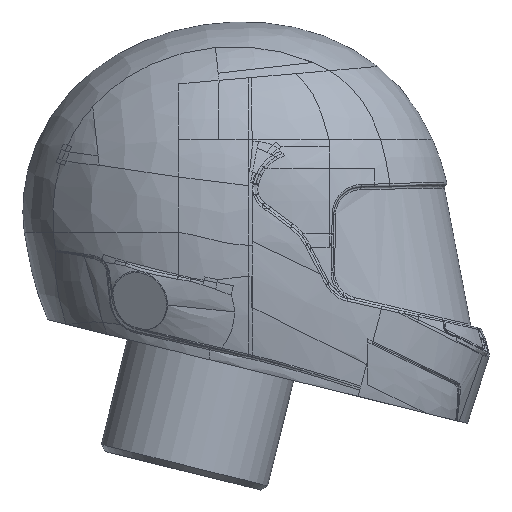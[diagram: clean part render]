
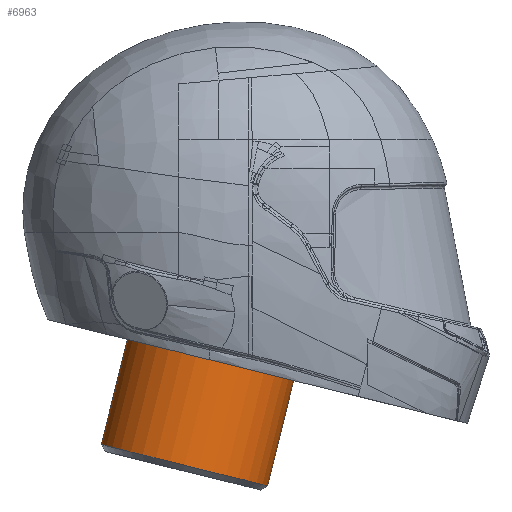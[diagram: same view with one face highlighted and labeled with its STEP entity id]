
A CAD part, front view. The second image highlights one B-rep face of the part: STEP entity #6963.
In plain terms, the highlighted cylindrical face has radius 3 mm (diameter 6 mm), a full revolution.
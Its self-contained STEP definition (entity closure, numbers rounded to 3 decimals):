
#1467=CYLINDRICAL_SURFACE('',#7445,3.);
#1492=FACE_OUTER_BOUND('',#1948,.T.);
#1948=EDGE_LOOP('',(#4564,#4565,#4566,#4567,#4568));
#2404=LINE('',#8197,#2427);
#2427=VECTOR('',#7695,3.);
#2449=CIRCLE('',#7441,3.);
#2450=CIRCLE('',#7442,3.);
#2452=CIRCLE('',#7446,3.);
#2609=VERTEX_POINT('',#8187);
#2610=VERTEX_POINT('',#8188);
#2612=VERTEX_POINT('',#8196);
#3357=EDGE_CURVE('',#2609,#2610,#2449,.T.);
#3358=EDGE_CURVE('',#2610,#2609,#2450,.T.);
#3361=EDGE_CURVE('',#2610,#2612,#2404,.T.);
#3362=EDGE_CURVE('',#2612,#2612,#2452,.T.);
#4564=ORIENTED_EDGE('',*,*,#3357,.F.);
#4565=ORIENTED_EDGE('',*,*,#3358,.F.);
#4566=ORIENTED_EDGE('',*,*,#3361,.T.);
#4567=ORIENTED_EDGE('',*,*,#3362,.T.);
#4568=ORIENTED_EDGE('',*,*,#3361,.F.);
#6963=ADVANCED_FACE('',(#1492),#1467,.T.);
#7441=AXIS2_PLACEMENT_3D('',#8189,#7684,#7685);
#7442=AXIS2_PLACEMENT_3D('',#8190,#7686,#7687);
#7445=AXIS2_PLACEMENT_3D('',#8195,#7693,#7694);
#7446=AXIS2_PLACEMENT_3D('',#8198,#7696,#7697);
#7684=DIRECTION('center_axis',(-0.24,0.,-0.971));
#7685=DIRECTION('ref_axis',(-0.971,0.,0.24));
#7686=DIRECTION('center_axis',(-0.24,0.,-0.971));
#7687=DIRECTION('ref_axis',(-0.971,0.,0.24));
#7693=DIRECTION('center_axis',(0.24,0.,0.971));
#7694=DIRECTION('ref_axis',(0.971,0.,-0.24));
#7695=DIRECTION('',(0.24,0.,0.971));
#7696=DIRECTION('center_axis',(-0.24,0.,-0.971));
#7697=DIRECTION('ref_axis',(0.971,0.,-0.24));
#8187=CARTESIAN_POINT('',(-30.589,0.,-136.091));
#8188=CARTESIAN_POINT('',(-36.413,0.,-134.65));
#8189=CARTESIAN_POINT('Origin',(-33.501,0.,-135.371));
#8190=CARTESIAN_POINT('Origin',(-33.501,0.,-135.371));
#8195=CARTESIAN_POINT('Origin',(-33.549,0.,-135.565));
#8196=CARTESIAN_POINT('',(-35.5,0.,-130.961));
#8197=CARTESIAN_POINT('',(-36.461,0.,-134.844));
#8198=CARTESIAN_POINT('Origin',(-32.588,0.,-131.682));
